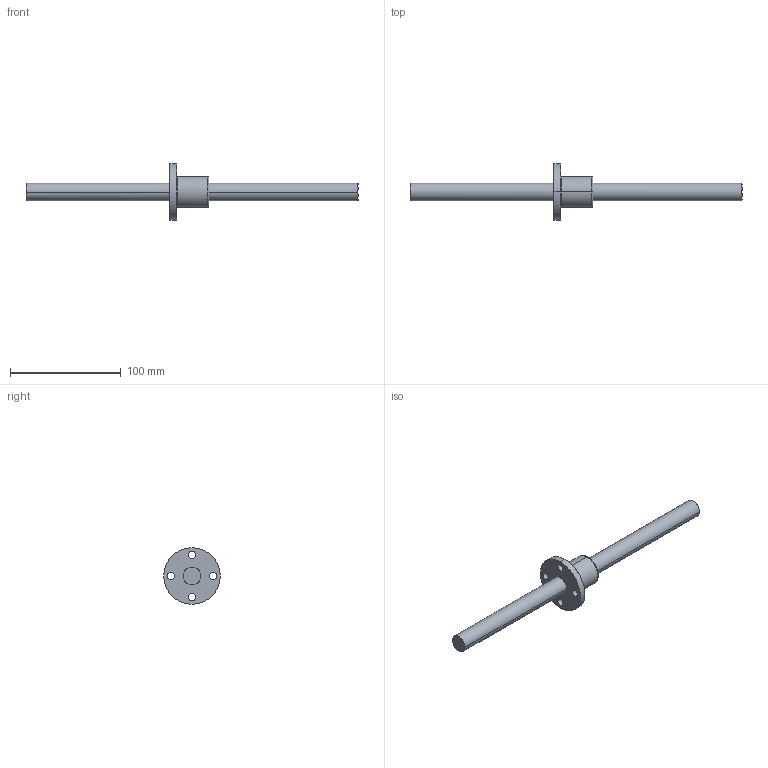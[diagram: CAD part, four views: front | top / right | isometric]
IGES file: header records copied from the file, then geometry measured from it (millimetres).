
Global section: file name: No Iges File Name specified; native system: AutoDesk Inventor R10; preprocessor: AutoDesk Inventor Iges Exporter R10; author: No Author specified; organization: No Organization specified; date: 20101224.144517; units: millimetre
Bounding box: 300 x 51 x 51 mm (x, y, z)
Surface area: 24603.8 mm2 (no closed solid volume)
Topology: 0 solids, 0 shells, 25 faces, 186 edges, 186 vertices
Faces by surface type: bspline 25
